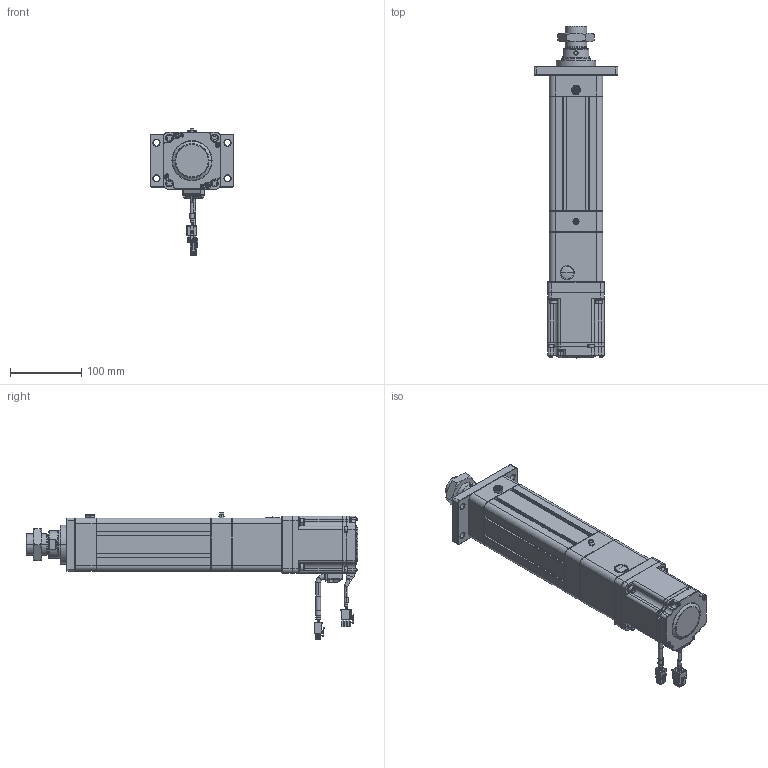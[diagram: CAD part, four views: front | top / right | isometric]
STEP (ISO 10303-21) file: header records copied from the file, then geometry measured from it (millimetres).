
FILE_DESCRIPTION((''),'2;1');
FILE_NAME('HE63-D-100-X1_ASM','2020-04-14T',('ASUS20200'),(''),'CREO PARAMETRIC BY PTC INC, 2014190','CREO PARAMETRIC BY PTC INC, 2014190','');
FILE_SCHEMA(('CONFIG_CONTROL_DESIGN'));
Products named in the file (28): HE63-D-P-001-X1; HE63-D-P-002-X1; HE63-D-P-003-X1; LGLM-M8-22; HE63-D-009-X1; HE63-D-010-X1; M6X16; _MHMF082L1A2; _CABLE_MOTOR_BOTTOM_05; _CABLE_MOTOR_TOP_05; _MOTOR_CONNECTOR_2; _CABLE_BRAKE_BOTTOM_05; _CABLE_BRAKE_TOP_05; _MHMF_CONNECTOR_9_PIN_A6; MHMF082L1A2M2_1_ASM; SLM-01; YZ-M6X1; SKT-16; TD-6; JDB405030; JX6X6X25; HE63-D-P-005-X1; HE63-D-P-004-X1; HE63-D-P-008-X1; M6X25; F-SE63FA; M8X16; HE63-D-100-X1_ASM
Assembly tree (46 placements, depth 3):
  HE63-D-100-X1_ASM
    HE63-D-P-001-X1
    HE63-D-P-002-X1
    HE63-D-P-003-X1
    LGLM-M8-22  x8
    HE63-D-009-X1
    HE63-D-010-X1
    M6X16  x4
    MHMF082L1A2M2_1_ASM
      _MHMF082L1A2
      _CABLE_MOTOR_BOTTOM_05
      _CABLE_MOTOR_TOP_05
      _MOTOR_CONNECTOR_2
      _CABLE_BRAKE_BOTTOM_05
      _CABLE_BRAKE_TOP_05
      _MHMF_CONNECTOR_9_PIN_A6
    SLM-01
    YZ-M6X1
    SKT-16
    TD-6  x4
    JDB405030
    JX6X6X25
    HE63-D-P-005-X1
    HE63-D-P-004-X1
    HE63-D-P-008-X1
    M6X25  x4
    F-SE63FA
    M8X16  x4
Bounding box: 118 x 466.9 x 179.15 mm (x, y, z)
Volume: 1652790.4 mm3; surface area: 435027.9 mm2
Topology: 45 solids, 73 shells, 2852 faces, 6943 edges, 4322 vertices
Faces by surface type: plane 1230, cylinder 822, cone 611, torus 142, sphere 44, bspline 3
Entity records: 71767 total; most frequent: CARTESIAN_POINT 13599, DIRECTION 12657, ORIENTED_EDGE 11530, EDGE_CURVE 5815, AXIS2_PLACEMENT_3D 4695, VERTEX_POINT 3643, VECTOR 3267, LINE 3267
